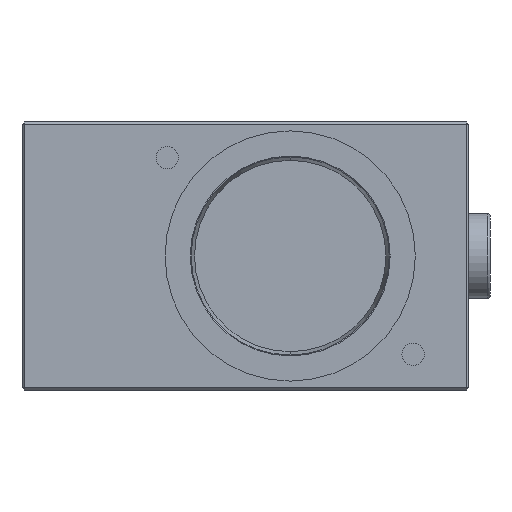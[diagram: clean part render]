
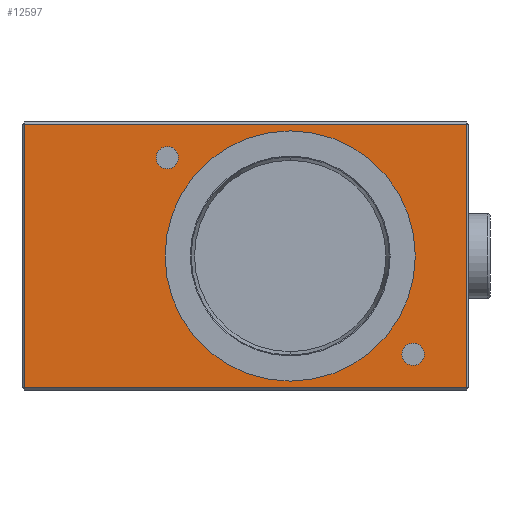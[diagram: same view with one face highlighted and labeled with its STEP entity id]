
A CAD part, left-side view. The second image highlights one B-rep face of the part: STEP entity #12597.
In plain terms, the highlighted planar face has unit normal (-1, 0, 0).
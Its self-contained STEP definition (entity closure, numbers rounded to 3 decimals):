
#167 = CARTESIAN_POINT ( 'NONE',  ( 0., 40., -30. ) ) ;
#396 = DIRECTION ( 'NONE',  ( -1., 0., 0. ) ) ;
#707 = VERTEX_POINT ( 'NONE', #1721 ) ;
#934 = CARTESIAN_POINT ( 'NONE',  ( 0., 12.5, -52. ) ) ;
#996 = PLANE ( 'NONE',  #6302 ) ;
#1059 = CARTESIAN_POINT ( 'NONE',  ( 0., 0.5, -60. ) ) ;
#1238 = DIRECTION ( 'NONE',  ( 0., 0., 1. ) ) ;
#1254 = EDGE_LOOP ( 'NONE', ( #12552, #10068 ) ) ;
#1649 = EDGE_CURVE ( 'NONE', #12632, #9719, #2775, .T. ) ;
#1721 = CARTESIAN_POINT ( 'NONE',  ( 0., 0.5, -0.5 ) ) ;
#1953 = VECTOR ( 'NONE', #4553, 1000. ) ;
#2004 = DIRECTION ( 'NONE',  ( 0., 0., 1. ) ) ;
#2150 = VECTOR ( 'NONE', #12174, 1000. ) ;
#2226 = AXIS2_PLACEMENT_3D ( 'NONE', #6790, #396, #7886 ) ;
#2518 = LINE ( 'NONE', #4720, #2150 ) ;
#2553 = CARTESIAN_POINT ( 'NONE',  ( 0., 0.5, -59.5 ) ) ;
#2583 = CARTESIAN_POINT ( 'NONE',  ( 0., 67.5, -8. ) ) ;
#2742 = AXIS2_PLACEMENT_3D ( 'NONE', #167, #7628, #1238 ) ;
#2775 = CIRCLE ( 'NONE', #2226, 2.5 ) ;
#2983 = CARTESIAN_POINT ( 'NONE',  ( 0., 12.5, -49.5 ) ) ;
#3637 = DIRECTION ( 'NONE',  ( 0., 0., 1. ) ) ;
#3690 = VECTOR ( 'NONE', #6095, 1000. ) ;
#3826 = AXIS2_PLACEMENT_3D ( 'NONE', #2583, #10069, #3637 ) ;
#3925 = CARTESIAN_POINT ( 'NONE',  ( 0., 67.5, -10.5 ) ) ;
#3992 = CIRCLE ( 'NONE', #11774, 2.5 ) ;
#4101 = EDGE_CURVE ( 'NONE', #8710, #5619, #2518, .T. ) ;
#4120 = VERTEX_POINT ( 'NONE', #9025 ) ;
#4238 = EDGE_CURVE ( 'NONE', #6118, #4120, #9881, .T. ) ;
#4551 = EDGE_CURVE ( 'NONE', #10572, #9201, #10195, .T. ) ;
#4553 = DIRECTION ( 'NONE',  ( 0., 1., 0. ) ) ;
#4663 = CARTESIAN_POINT ( 'NONE',  ( 0., 67.5, -8. ) ) ;
#4720 = CARTESIAN_POINT ( 'NONE',  ( 0., 0., -59.5 ) ) ;
#4918 = AXIS2_PLACEMENT_3D ( 'NONE', #4663, #12158, #5732 ) ;
#4989 = VERTEX_POINT ( 'NONE', #6292 ) ;
#5290 = EDGE_LOOP ( 'NONE', ( #12997, #9840, #10072, #9830 ) ) ;
#5351 = DIRECTION ( 'NONE',  ( 0., 0., 1. ) ) ;
#5619 = VERTEX_POINT ( 'NONE', #2553 ) ;
#5732 = DIRECTION ( 'NONE',  ( 0., 0., 1. ) ) ;
#6095 = DIRECTION ( 'NONE',  ( 0., 0., -1. ) ) ;
#6118 = VERTEX_POINT ( 'NONE', #13094 ) ;
#6292 = CARTESIAN_POINT ( 'NONE',  ( 0., 99.5, -0.5 ) ) ;
#6302 = AXIS2_PLACEMENT_3D ( 'NONE', #12795, #6355, #13890 ) ;
#6314 = DIRECTION ( 'NONE',  ( -1., 0., 0. ) ) ;
#6355 = DIRECTION ( 'NONE',  ( -1., 0., 0. ) ) ;
#6540 = VECTOR ( 'NONE', #5351, 1000. ) ;
#6790 = CARTESIAN_POINT ( 'NONE',  ( 0., 12.5, -52. ) ) ;
#7150 = FACE_BOUND ( 'NONE', #10859, .T. ) ;
#7293 = ORIENTED_EDGE ( 'NONE', *, *, #4238, .F. ) ;
#7430 = CARTESIAN_POINT ( 'NONE',  ( 0., 12.5, -54.5 ) ) ;
#7453 = CARTESIAN_POINT ( 'NONE',  ( 0., 67.5, -5.5 ) ) ;
#7470 = FACE_BOUND ( 'NONE', #1254, .T. ) ;
#7628 = DIRECTION ( 'NONE',  ( -1., 0., 0. ) ) ;
#7829 = EDGE_CURVE ( 'NONE', #9201, #10572, #12464, .T. ) ;
#7886 = DIRECTION ( 'NONE',  ( 0., 0., 1. ) ) ;
#8407 = EDGE_LOOP ( 'NONE', ( #11115, #8636 ) ) ;
#8418 = DIRECTION ( 'NONE',  ( -1., 0., 0. ) ) ;
#8636 = ORIENTED_EDGE ( 'NONE', *, *, #1649, .F. ) ;
#8710 = VERTEX_POINT ( 'NONE', #10788 ) ;
#9025 = CARTESIAN_POINT ( 'NONE',  ( 0., 40., -58. ) ) ;
#9201 = VERTEX_POINT ( 'NONE', #7453 ) ;
#9212 = EDGE_CURVE ( 'NONE', #5619, #707, #12284, .T. ) ;
#9638 = EDGE_CURVE ( 'NONE', #4989, #8710, #12253, .T. ) ;
#9719 = VERTEX_POINT ( 'NONE', #2983 ) ;
#9830 = ORIENTED_EDGE ( 'NONE', *, *, #9638, .T. ) ;
#9834 = ORIENTED_EDGE ( 'NONE', *, *, #10392, .F. ) ;
#9840 = ORIENTED_EDGE ( 'NONE', *, *, #9212, .T. ) ;
#9881 = CIRCLE ( 'NONE', #11896, 28. ) ;
#10023 = FACE_BOUND ( 'NONE', #8407, .T. ) ;
#10068 = ORIENTED_EDGE ( 'NONE', *, *, #4551, .F. ) ;
#10069 = DIRECTION ( 'NONE',  ( -1., 0., 0. ) ) ;
#10072 = ORIENTED_EDGE ( 'NONE', *, *, #12725, .T. ) ;
#10195 = CIRCLE ( 'NONE', #4918, 2.5 ) ;
#10392 = EDGE_CURVE ( 'NONE', #4120, #6118, #13588, .T. ) ;
#10572 = VERTEX_POINT ( 'NONE', #3925 ) ;
#10788 = CARTESIAN_POINT ( 'NONE',  ( 0., 99.5, -59.5 ) ) ;
#10859 = EDGE_LOOP ( 'NONE', ( #7293, #9834 ) ) ;
#10992 = CARTESIAN_POINT ( 'NONE',  ( 0., 100., -0.5 ) ) ;
#11115 = ORIENTED_EDGE ( 'NONE', *, *, #12129, .F. ) ;
#11383 = CARTESIAN_POINT ( 'NONE',  ( 0., 99.5, -60. ) ) ;
#11774 = AXIS2_PLACEMENT_3D ( 'NONE', #934, #8418, #2004 ) ;
#11896 = AXIS2_PLACEMENT_3D ( 'NONE', #12764, #6314, #13856 ) ;
#12129 = EDGE_CURVE ( 'NONE', #9719, #12632, #3992, .T. ) ;
#12158 = DIRECTION ( 'NONE',  ( -1., 0., 0. ) ) ;
#12174 = DIRECTION ( 'NONE',  ( 0., -1., 0. ) ) ;
#12253 = LINE ( 'NONE', #11383, #3690 ) ;
#12284 = LINE ( 'NONE', #1059, #6540 ) ;
#12464 = CIRCLE ( 'NONE', #3826, 2.5 ) ;
#12552 = ORIENTED_EDGE ( 'NONE', *, *, #7829, .F. ) ;
#12597 = ADVANCED_FACE ( 'NONE', ( #12847, #7470, #10023, #7150 ), #996, .T. ) ;
#12632 = VERTEX_POINT ( 'NONE', #7430 ) ;
#12702 = LINE ( 'NONE', #10992, #1953 ) ;
#12725 = EDGE_CURVE ( 'NONE', #707, #4989, #12702, .T. ) ;
#12764 = CARTESIAN_POINT ( 'NONE',  ( 0., 40., -30. ) ) ;
#12795 = CARTESIAN_POINT ( 'NONE',  ( 0., 0., -60. ) ) ;
#12847 = FACE_OUTER_BOUND ( 'NONE', #5290, .T. ) ;
#12997 = ORIENTED_EDGE ( 'NONE', *, *, #4101, .T. ) ;
#13094 = CARTESIAN_POINT ( 'NONE',  ( 0., 40., -2. ) ) ;
#13588 = CIRCLE ( 'NONE', #2742, 28. ) ;
#13856 = DIRECTION ( 'NONE',  ( 0., 0., 1. ) ) ;
#13890 = DIRECTION ( 'NONE',  ( 0., 0., 1. ) ) ;
